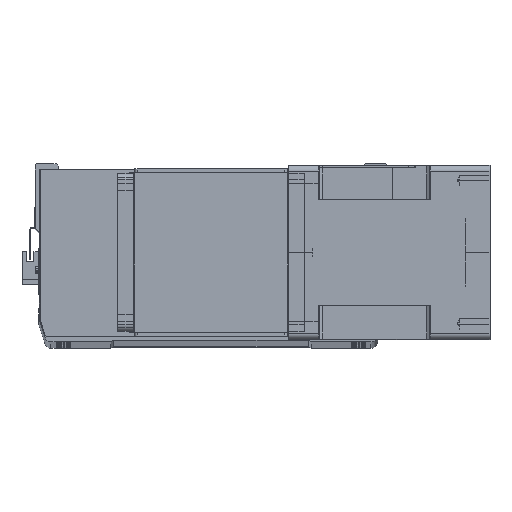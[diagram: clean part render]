
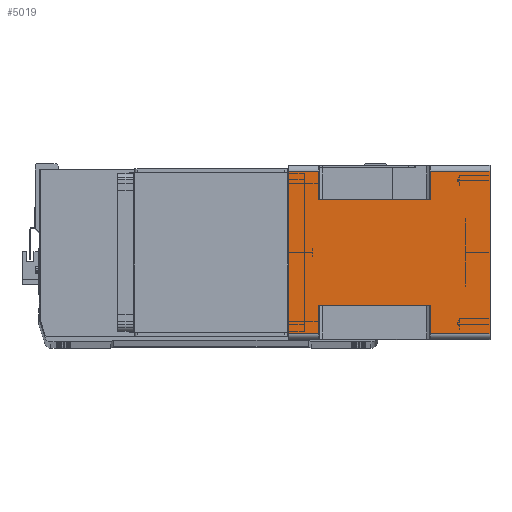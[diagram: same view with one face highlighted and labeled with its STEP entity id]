
A CAD part, top view. The second image highlights one B-rep face of the part: STEP entity #5019.
In plain terms, the highlighted planar face has unit normal (0, 0, 1) as drawn and (1, 0, 0) by its records, which use the part's own axes.
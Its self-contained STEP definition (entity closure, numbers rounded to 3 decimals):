
#187 = VERTEX_POINT ( 'NONE', #19250 ) ;
#659 = LINE ( 'NONE', #5272, #4480 ) ;
#706 = AXIS2_PLACEMENT_3D ( 'NONE', #26427, #21034, #34601 ) ;
#917 = VERTEX_POINT ( 'NONE', #19006 ) ;
#1630 = ORIENTED_EDGE ( 'NONE', *, *, #12885, .F. ) ;
#2014 = EDGE_CURVE ( 'NONE', #6829, #25348, #20813, .T. ) ;
#2079 = CARTESIAN_POINT ( 'NONE',  ( 71., -66., -24.5 ) ) ;
#2125 = PLANE ( 'NONE',  #706 ) ;
#2298 = DIRECTION ( 'NONE',  ( 0., -1., 0. ) ) ;
#3825 = VERTEX_POINT ( 'NONE', #33657 ) ;
#3969 = VECTOR ( 'NONE', #23618, 1000. ) ;
#4036 = CARTESIAN_POINT ( 'NONE',  ( 71., -43., -164. ) ) ;
#4480 = VECTOR ( 'NONE', #2298, 1000. ) ;
#4652 = DIRECTION ( 'NONE',  ( 0., 1., 0. ) ) ;
#5019 = ADVANCED_FACE ( 'NONE', ( #26241 ), #2125, .T. ) ;
#5272 = CARTESIAN_POINT ( 'NONE',  ( 71., -66., -115.5 ) ) ;
#5370 = ORIENTED_EDGE ( 'NONE', *, *, #11123, .T. ) ;
#5711 = VERTEX_POINT ( 'NONE', #22071 ) ;
#6527 = DIRECTION ( 'NONE',  ( 0., 0., 1. ) ) ;
#6533 = VECTOR ( 'NONE', #32152, 1000. ) ;
#6647 = LINE ( 'NONE', #19145, #34493 ) ;
#6829 = VERTEX_POINT ( 'NONE', #26062 ) ;
#7218 = ORIENTED_EDGE ( 'NONE', *, *, #15842, .T. ) ;
#8126 = DIRECTION ( 'NONE',  ( 0., 0., 1. ) ) ;
#8137 = EDGE_CURVE ( 'NONE', #31350, #187, #8197, .T. ) ;
#8182 = EDGE_CURVE ( 'NONE', #25348, #34929, #22543, .T. ) ;
#8197 = LINE ( 'NONE', #10171, #6533 ) ;
#9289 = ORIENTED_EDGE ( 'NONE', *, *, #31464, .T. ) ;
#9346 = ORIENTED_EDGE ( 'NONE', *, *, #8137, .T. ) ;
#10163 = CARTESIAN_POINT ( 'NONE',  ( 71., -66., -164. ) ) ;
#10171 = CARTESIAN_POINT ( 'NONE',  ( 71., 43., -115.5 ) ) ;
#10571 = VERTEX_POINT ( 'NONE', #15121 ) ;
#10926 = CARTESIAN_POINT ( 'NONE',  ( 71., -66., -164. ) ) ;
#11123 = EDGE_CURVE ( 'NONE', #12228, #3825, #26143, .T. ) ;
#11300 = EDGE_LOOP ( 'NONE', ( #11776, #9289, #31537, #7218, #22720, #9346, #1630, #16986, #22215, #12960, #23226, #5370 ) ) ;
#11726 = LINE ( 'NONE', #4036, #27343 ) ;
#11776 = ORIENTED_EDGE ( 'NONE', *, *, #25977, .F. ) ;
#12228 = VERTEX_POINT ( 'NONE', #2079 ) ;
#12885 = EDGE_CURVE ( 'NONE', #6829, #187, #28554, .T. ) ;
#12960 = ORIENTED_EDGE ( 'NONE', *, *, #19038, .F. ) ;
#13074 = LINE ( 'NONE', #14296, #15986 ) ;
#13633 = DIRECTION ( 'NONE',  ( 0., 1., 0. ) ) ;
#13882 = LINE ( 'NONE', #10926, #15180 ) ;
#14296 = CARTESIAN_POINT ( 'NONE',  ( 71., 66., -164. ) ) ;
#14936 = CARTESIAN_POINT ( 'NONE',  ( 71., -66., 0. ) ) ;
#15121 = CARTESIAN_POINT ( 'NONE',  ( 71., 66., -164. ) ) ;
#15180 = VECTOR ( 'NONE', #13633, 1000. ) ;
#15842 = EDGE_CURVE ( 'NONE', #5711, #10571, #13882, .T. ) ;
#15986 = VECTOR ( 'NONE', #22558, 1000. ) ;
#16986 = ORIENTED_EDGE ( 'NONE', *, *, #2014, .T. ) ;
#17016 = VERTEX_POINT ( 'NONE', #25560 ) ;
#17220 = DIRECTION ( 'NONE',  ( 0., 0., -1. ) ) ;
#18144 = VECTOR ( 'NONE', #4652, 1000. ) ;
#18223 = CARTESIAN_POINT ( 'NONE',  ( 71., 66., -164. ) ) ;
#19006 = CARTESIAN_POINT ( 'NONE',  ( 71., -66., 0. ) ) ;
#19038 = EDGE_CURVE ( 'NONE', #917, #34929, #29595, .T. ) ;
#19145 = CARTESIAN_POINT ( 'NONE',  ( 71., -66., -164. ) ) ;
#19250 = CARTESIAN_POINT ( 'NONE',  ( 71., 43., -115.5 ) ) ;
#19932 = CARTESIAN_POINT ( 'NONE',  ( 71., 66., -24.5 ) ) ;
#20438 = EDGE_CURVE ( 'NONE', #5711, #28383, #25877, .T. ) ;
#20813 = LINE ( 'NONE', #28932, #21645 ) ;
#21034 = DIRECTION ( 'NONE',  ( 1., 0., 0. ) ) ;
#21047 = DIRECTION ( 'NONE',  ( 0., 1., 0. ) ) ;
#21645 = VECTOR ( 'NONE', #21047, 1000. ) ;
#22069 = EDGE_CURVE ( 'NONE', #10571, #31350, #13074, .T. ) ;
#22071 = CARTESIAN_POINT ( 'NONE',  ( 71., -66., -164. ) ) ;
#22204 = VECTOR ( 'NONE', #17220, 1000. ) ;
#22215 = ORIENTED_EDGE ( 'NONE', *, *, #8182, .T. ) ;
#22475 = EDGE_CURVE ( 'NONE', #12228, #917, #6647, .T. ) ;
#22543 = LINE ( 'NONE', #18223, #3969 ) ;
#22558 = DIRECTION ( 'NONE',  ( 0., 0., 1. ) ) ;
#22668 = DIRECTION ( 'NONE',  ( 0., 0., 1. ) ) ;
#22720 = ORIENTED_EDGE ( 'NONE', *, *, #22069, .T. ) ;
#23226 = ORIENTED_EDGE ( 'NONE', *, *, #22475, .F. ) ;
#23618 = DIRECTION ( 'NONE',  ( 0., 0., 1. ) ) ;
#25348 = VERTEX_POINT ( 'NONE', #19932 ) ;
#25560 = CARTESIAN_POINT ( 'NONE',  ( 71., -43., -115.5 ) ) ;
#25730 = CARTESIAN_POINT ( 'NONE',  ( 71., -66., -115.5 ) ) ;
#25877 = LINE ( 'NONE', #10163, #32676 ) ;
#25977 = EDGE_CURVE ( 'NONE', #17016, #3825, #11726, .T. ) ;
#25994 = DIRECTION ( 'NONE',  ( 0., 1., 0. ) ) ;
#26062 = CARTESIAN_POINT ( 'NONE',  ( 71., 43., -24.5 ) ) ;
#26143 = LINE ( 'NONE', #34510, #18144 ) ;
#26241 = FACE_OUTER_BOUND ( 'NONE', #11300, .T. ) ;
#26427 = CARTESIAN_POINT ( 'NONE',  ( 71., -66., -164. ) ) ;
#27343 = VECTOR ( 'NONE', #22668, 1000. ) ;
#27581 = CARTESIAN_POINT ( 'NONE',  ( 71., 66., -115.5 ) ) ;
#28383 = VERTEX_POINT ( 'NONE', #25730 ) ;
#28554 = LINE ( 'NONE', #30674, #22204 ) ;
#28766 = VECTOR ( 'NONE', #25994, 1000. ) ;
#28932 = CARTESIAN_POINT ( 'NONE',  ( 71., -66., -24.5 ) ) ;
#28955 = CARTESIAN_POINT ( 'NONE',  ( 71., 66., 0. ) ) ;
#29595 = LINE ( 'NONE', #14936, #28766 ) ;
#30674 = CARTESIAN_POINT ( 'NONE',  ( 71., 43., -164. ) ) ;
#31350 = VERTEX_POINT ( 'NONE', #27581 ) ;
#31464 = EDGE_CURVE ( 'NONE', #17016, #28383, #659, .T. ) ;
#31537 = ORIENTED_EDGE ( 'NONE', *, *, #20438, .F. ) ;
#32152 = DIRECTION ( 'NONE',  ( 0., -1., 0. ) ) ;
#32676 = VECTOR ( 'NONE', #8126, 1000. ) ;
#33657 = CARTESIAN_POINT ( 'NONE',  ( 71., -43., -24.5 ) ) ;
#34493 = VECTOR ( 'NONE', #6527, 1000. ) ;
#34510 = CARTESIAN_POINT ( 'NONE',  ( 71., -43., -24.5 ) ) ;
#34601 = DIRECTION ( 'NONE',  ( 0., 1., 0. ) ) ;
#34929 = VERTEX_POINT ( 'NONE', #28955 ) ;
